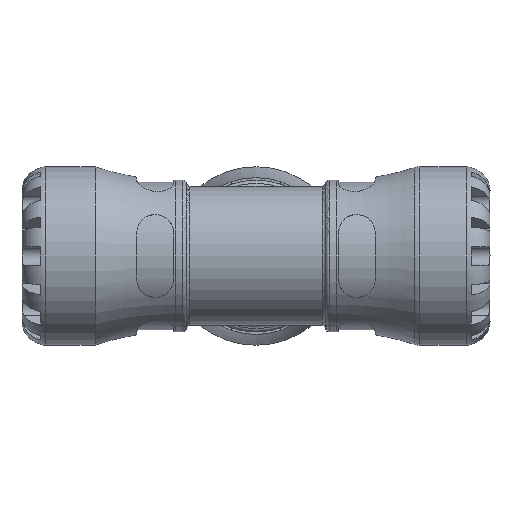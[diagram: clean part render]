
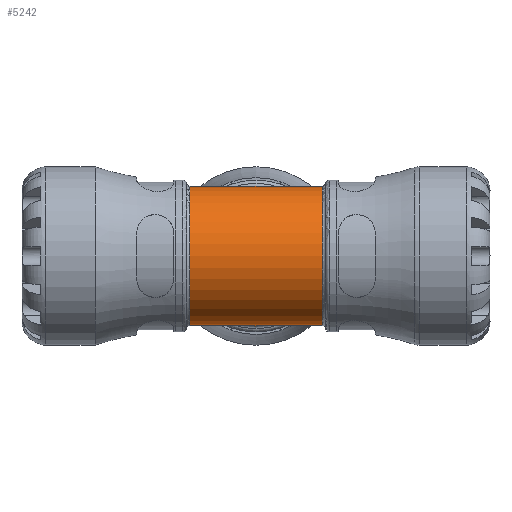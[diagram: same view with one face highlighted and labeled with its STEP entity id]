
A CAD part, front view. The second image highlights one B-rep face of the part: STEP entity #5242.
In plain terms, the highlighted cylindrical face has radius 33.15 mm (diameter 66.3 mm), a partial arc.
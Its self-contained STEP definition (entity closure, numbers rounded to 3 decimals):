
#974=CYLINDRICAL_SURFACE('',#5752,33.15);
#1420=FACE_OUTER_BOUND('',#1724,.T.);
#1724=EDGE_LOOP('',(#4392,#4393,#4394,#4395,#4396,#4397));
#1852=ELLIPSE('',#5383,47.486,33.15);
#1855=ELLIPSE('',#5388,47.486,33.15);
#1857=ELLIPSE('',#5392,47.486,33.15);
#1858=ELLIPSE('',#5394,47.486,33.15);
#1883=CIRCLE('',#5413,33.15);
#1984=CIRCLE('',#5615,33.15);
#2177=VERTEX_POINT('',#7510);
#2178=VERTEX_POINT('',#7512);
#2181=VERTEX_POINT('',#7638);
#2186=VERTEX_POINT('',#7825);
#2188=VERTEX_POINT('',#7828);
#2190=VERTEX_POINT('',#7862);
#2682=EDGE_CURVE('',#2177,#2178,#1852,.T.);
#2689=EDGE_CURVE('',#2178,#2181,#1855,.T.);
#2696=EDGE_CURVE('',#2188,#2186,#1857,.T.);
#2698=EDGE_CURVE('',#2190,#2188,#1858,.T.);
#2722=EDGE_CURVE('',#2186,#2177,#1883,.T.);
#2983=EDGE_CURVE('',#2181,#2190,#1984,.T.);
#4392=ORIENTED_EDGE('',*,*,#2682,.F.);
#4393=ORIENTED_EDGE('',*,*,#2722,.F.);
#4394=ORIENTED_EDGE('',*,*,#2696,.F.);
#4395=ORIENTED_EDGE('',*,*,#2698,.F.);
#4396=ORIENTED_EDGE('',*,*,#2983,.F.);
#4397=ORIENTED_EDGE('',*,*,#2689,.F.);
#5242=ADVANCED_FACE('',(#1420),#974,.T.);
#5383=AXIS2_PLACEMENT_3D('',#7513,#5998,#5999);
#5388=AXIS2_PLACEMENT_3D('',#7642,#6008,#6009);
#5392=AXIS2_PLACEMENT_3D('',#7830,#6016,#6017);
#5394=AXIS2_PLACEMENT_3D('',#7864,#6020,#6021);
#5413=AXIS2_PLACEMENT_3D('',#8273,#6058,#6059);
#5615=AXIS2_PLACEMENT_3D('',#9822,#6551,#6552);
#5752=AXIS2_PLACEMENT_3D('',#10826,#6891,#6892);
#5998=DIRECTION('center_axis',(-0.698,0.716,0.));
#5999=DIRECTION('ref_axis',(0.716,0.698,0.));
#6008=DIRECTION('center_axis',(0.698,0.716,0.));
#6009=DIRECTION('ref_axis',(-0.716,0.698,0.));
#6016=DIRECTION('center_axis',(-0.698,0.716,0.));
#6017=DIRECTION('ref_axis',(0.716,0.698,0.));
#6020=DIRECTION('center_axis',(0.698,0.716,0.));
#6021=DIRECTION('ref_axis',(-0.716,0.698,0.));
#6058=DIRECTION('center_axis',(1.,0.,0.));
#6059=DIRECTION('ref_axis',(0.,1.,0.));
#6551=DIRECTION('center_axis',(-1.,0.,0.));
#6552=DIRECTION('ref_axis',(0.,1.,0.));
#6891=DIRECTION('center_axis',(1.,0.,0.));
#6892=DIRECTION('ref_axis',(0.,-1.,0.));
#7510=CARTESIAN_POINT('',(31.477,30.69,-12.532));
#7512=CARTESIAN_POINT('',(0.,0.,-33.15));
#7513=CARTESIAN_POINT('Origin',(0.,0.,0.));
#7638=CARTESIAN_POINT('',(-31.477,30.69,-12.532));
#7642=CARTESIAN_POINT('Origin',(0.,0.,0.));
#7825=CARTESIAN_POINT('',(31.477,30.69,12.532));
#7828=CARTESIAN_POINT('',(0.,0.,33.15));
#7830=CARTESIAN_POINT('Origin',(0.,0.,0.));
#7862=CARTESIAN_POINT('',(-31.477,30.69,12.532));
#7864=CARTESIAN_POINT('Origin',(0.,0.,0.));
#8273=CARTESIAN_POINT('Origin',(31.477,0.,0.));
#9822=CARTESIAN_POINT('Origin',(-31.477,0.,0.));
#10826=CARTESIAN_POINT('Origin',(16.575,0.,0.));
